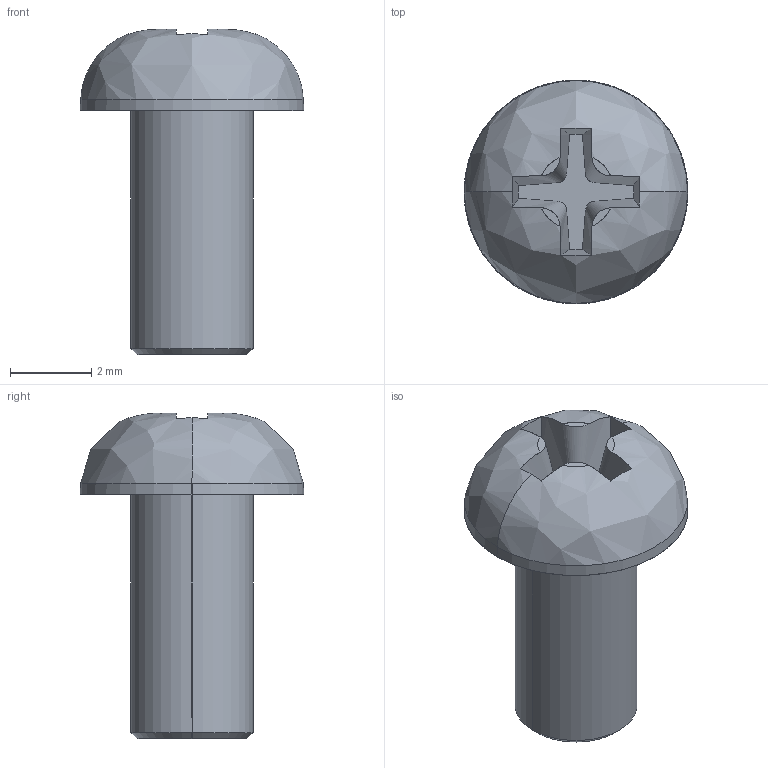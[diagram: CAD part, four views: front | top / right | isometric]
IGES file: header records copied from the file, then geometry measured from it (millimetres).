
Start section: SolidWorks IGES file using analytic representation for surfaces
Bounding box: 5.5 x 5.5 x 8 mm (x, y, z)
Surface area: 136.5 mm2 (no closed solid volume)
Topology: 0 solids, 0 shells, 23 faces, 282 edges, 282 vertices
Faces by surface type: bspline 17, revolution 6
